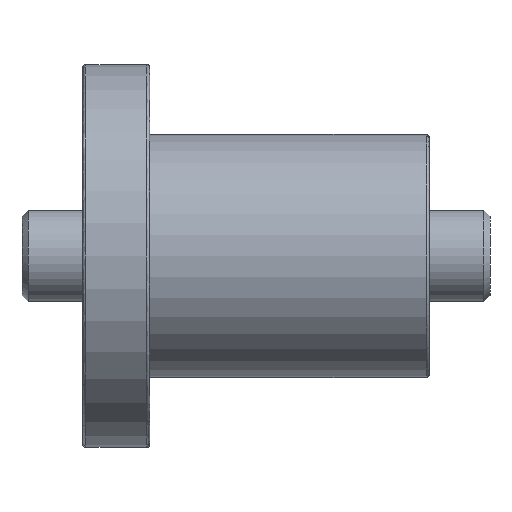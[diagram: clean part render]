
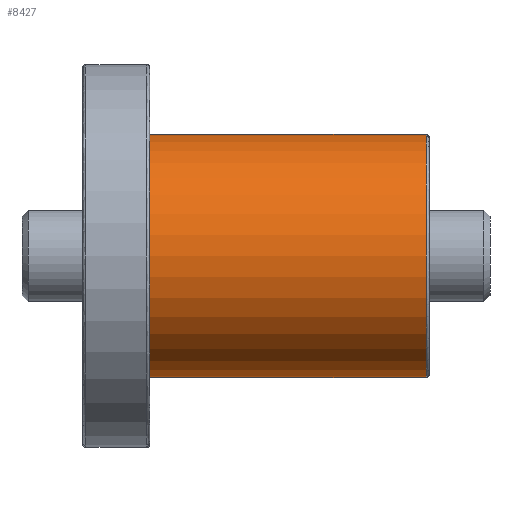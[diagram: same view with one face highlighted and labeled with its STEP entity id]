
A CAD part, front view. The second image highlights one B-rep face of the part: STEP entity #8427.
In plain terms, the highlighted cylindrical face has radius 20 mm (diameter 40 mm), a partial arc.
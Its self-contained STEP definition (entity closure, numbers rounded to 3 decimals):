
#239 = EDGE_CURVE ( 'NONE', #4433, #2308, #4616, .T. ) ;
#368 = AXIS2_PLACEMENT_3D ( 'NONE', #5048, #8419, #2433 ) ;
#441 = ORIENTED_EDGE ( 'NONE', *, *, #5930, .T. ) ;
#846 = VERTEX_POINT ( 'NONE', #1905 ) ;
#962 = DIRECTION ( 'NONE',  ( -1., 0., 0. ) ) ;
#1073 = ORIENTED_EDGE ( 'NONE', *, *, #7684, .T. ) ;
#1334 = VECTOR ( 'NONE', #1664, 1000. ) ;
#1664 = DIRECTION ( 'NONE',  ( -1., 0., 0. ) ) ;
#1753 = LINE ( 'NONE', #4289, #1334 ) ;
#1905 = CARTESIAN_POINT ( 'NONE',  ( 56.5, 0., -20. ) ) ;
#2046 = CYLINDRICAL_SURFACE ( 'NONE', #6202, 20. ) ;
#2308 = VERTEX_POINT ( 'NONE', #6238 ) ;
#2377 = DIRECTION ( 'NONE',  ( -1., 0., 0. ) ) ;
#2433 = DIRECTION ( 'NONE',  ( 0., 0., 1. ) ) ;
#2493 = VERTEX_POINT ( 'NONE', #3422 ) ;
#3325 = CARTESIAN_POINT ( 'NONE',  ( 57., 0., 0. ) ) ;
#3422 = CARTESIAN_POINT ( 'NONE',  ( 56.5, 0., 20. ) ) ;
#3453 = ORIENTED_EDGE ( 'NONE', *, *, #239, .T. ) ;
#4003 = VECTOR ( 'NONE', #2377, 1000. ) ;
#4289 = CARTESIAN_POINT ( 'NONE',  ( 57., 0., 20. ) ) ;
#4317 = CARTESIAN_POINT ( 'NONE',  ( 56.5, 0., 0. ) ) ;
#4433 = VERTEX_POINT ( 'NONE', #5549 ) ;
#4616 = CIRCLE ( 'NONE', #368, 20. ) ;
#4642 = DIRECTION ( 'NONE',  ( -1., 0., 0. ) ) ;
#5033 = LINE ( 'NONE', #6325, #4003 ) ;
#5048 = CARTESIAN_POINT ( 'NONE',  ( 11., 0., 0. ) ) ;
#5549 = CARTESIAN_POINT ( 'NONE',  ( 11., 0., 20. ) ) ;
#5930 = EDGE_CURVE ( 'NONE', #846, #2493, #7117, .T. ) ;
#6028 = DIRECTION ( 'NONE',  ( 0., 0., 1. ) ) ;
#6202 = AXIS2_PLACEMENT_3D ( 'NONE', #3325, #4642, #6028 ) ;
#6238 = CARTESIAN_POINT ( 'NONE',  ( 11., 0., -20. ) ) ;
#6325 = CARTESIAN_POINT ( 'NONE',  ( 57., 0., -20. ) ) ;
#6504 = EDGE_CURVE ( 'NONE', #846, #2308, #5033, .T. ) ;
#6748 = AXIS2_PLACEMENT_3D ( 'NONE', #4317, #962, #6903 ) ;
#6838 = ORIENTED_EDGE ( 'NONE', *, *, #6504, .F. ) ;
#6903 = DIRECTION ( 'NONE',  ( 0., 0., 1. ) ) ;
#7117 = CIRCLE ( 'NONE', #6748, 20. ) ;
#7304 = FACE_OUTER_BOUND ( 'NONE', #7498, .T. ) ;
#7498 = EDGE_LOOP ( 'NONE', ( #6838, #441, #1073, #3453 ) ) ;
#7684 = EDGE_CURVE ( 'NONE', #2493, #4433, #1753, .T. ) ;
#8419 = DIRECTION ( 'NONE',  ( 1., 0., 0. ) ) ;
#8427 = ADVANCED_FACE ( 'NONE', ( #7304 ), #2046, .T. ) ;
